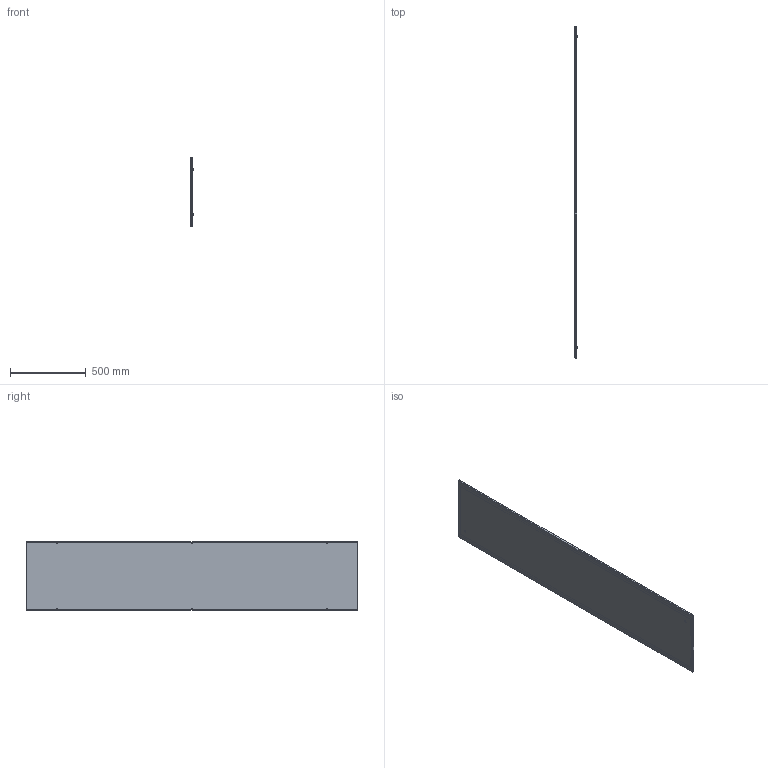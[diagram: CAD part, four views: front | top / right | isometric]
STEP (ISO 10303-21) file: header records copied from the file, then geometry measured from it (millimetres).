
FILE_DESCRIPTION(('STEP AP203'), '1');
FILE_NAME('Ïàíåëü áîêîâàÿ 2200õ500 ìì IP55 OptiBox M (2 øò) 419663 ÊÝÀÇ', '', ('UNSPECIFIED'), ('UNSPECIFIED'), 'C3D Converter', 'C3D Toolkit', '');
FILE_SCHEMA(('CONFIG_CONTROL_DESIGN'));
Length unit declared in the file: millimetre
Bounding box: 18.9 x 2186 x 453 mm (x, y, z)
Volume: 1946052.3 mm3; surface area: 2317586.3 mm2
Topology: 4 solids, 4 shells, 135 faces, 278 edges, 164 vertices
Faces by surface type: plane 77, cylinder 50, bspline 8
Full cylindrical faces by diameter (mm): 0.75 x2, 1 x2, 6.3 x6, 8 x2, 9.3 x2, 13 x2, 13.5 x6
Entity records: 5656 total; most frequent: CARTESIAN_POINT 1932, DIRECTION 544, ORIENTED_EDGE 512, EDGE_CURVE 256, AXIS2_PLACEMENT_3D 196, EDGE_LOOP 184, VERTEX_POINT 164, LINE 152
